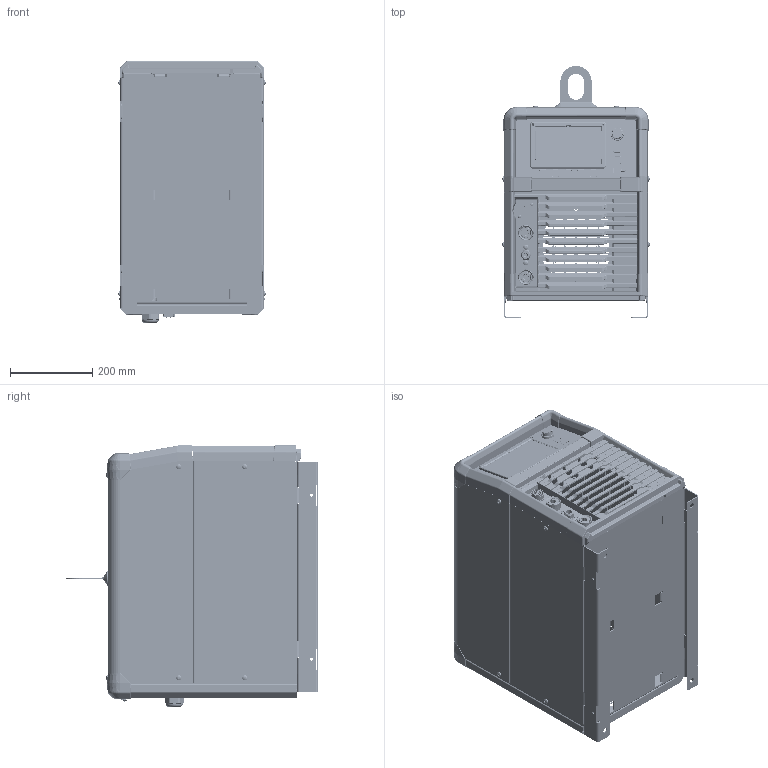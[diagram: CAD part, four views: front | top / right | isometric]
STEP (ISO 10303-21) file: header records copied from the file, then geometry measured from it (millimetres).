
FILE_DESCRIPTION (( 'STEP AP214' ), '1' );
FILE_NAME ('907858.STEP', '2024-10-25T13:14:35', ( '' ), ( '' ), 'SwSTEP 2.0', 'SolidWorks 2022', '' );
FILE_SCHEMA (( 'AUTOMOTIVE_DESIGN' ));
Length unit declared in the file: inch
Products named in the file (93): 227147_Rev A Torx; 254151; 128237; 137761; 250955; 202711; 274934; 907858; 278019; 215980 - nut; 280528; 178548; 264346; spring lock washer_2_jis_JIS B 1251 No.2 10; 244920; 215980 - Sealing ring; 292267; 292816; 292306; 292278; 293591_LEADS SUPPRESED; 292581; 242579; 274935; 292262; 122210; 226639; 292263; 292265; 221282_0.375 Length; 230155; 238805; 270465; 181529; 289225; 292275; 186228; 292264; 134735; 213073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
Assembly tree (82 placements, depth 4):
  907858
    292261
    292264
      292262
        292262
        250955
      250043
      274934
      250043
      274934
      231279
      292305
      292306
      292278
      292399
      254151
      264346
      264346
      289225
      292816
      128237
      128237
      275258
        134735
      227147_Rev A Torx
      227147_Rev A Torx
      242579
      242579
    292275
    292276
    293478_Dynasty
    292265
      292263
        292263
        221282_0.375 Length
        221282_0.375 Length
      292738
      244920
      215980
        215980 - Gland
        215980 - Sealing ring
        215980 - nut
      238805
      137761
      227147_Rev A Torx
      227147_Rev A Torx
      292585
      293591_LEADS SUPPRESED
        293590
        270465
        270466
        202711
      227147_Rev A Torx
      278019
    292268
      292268
    292266
    292267  x2
    213073
    128237
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Bounding box: 357.88 x 612.5 x 636.41 mm (x, y, z)
Volume: 3826941.8 mm3; surface area: 3469916.2 mm2
Topology: 88 solids, 89 shells, 12092 faces, 30702 edges, 18745 vertices
Faces by surface type: cylinder 4502, plane 4386, bspline 2397, torus 303, cone 281, sphere 223
Entity records: 415646 total; most frequent: CARTESIAN_POINT 131390, ORIENTED_EDGE 59798, DIRECTION 50102, EDGE_CURVE 29899, VERTEX_POINT 18335, AXIS2_PLACEMENT_3D 17250, LINE 15602, VECTOR 15602
